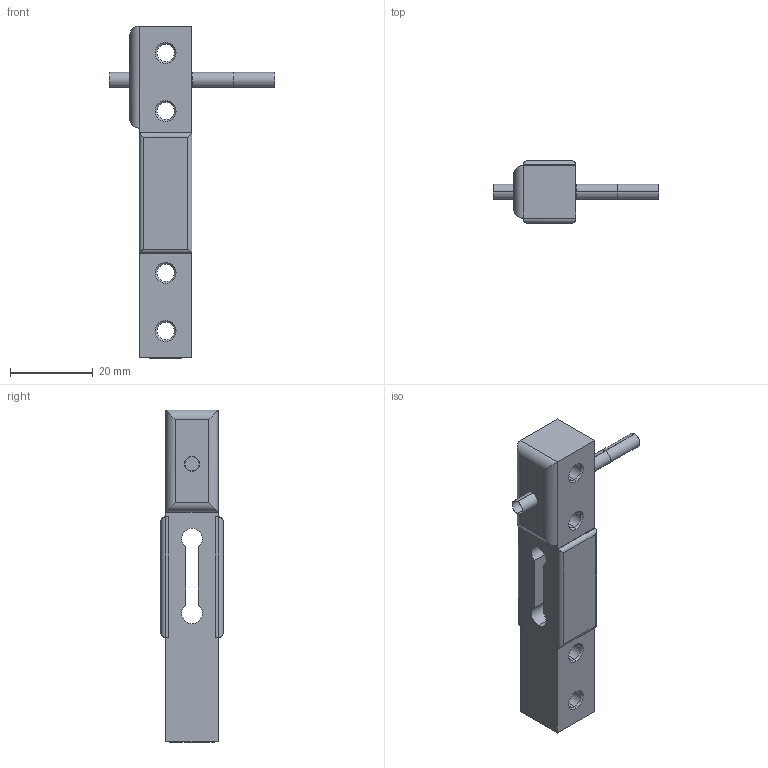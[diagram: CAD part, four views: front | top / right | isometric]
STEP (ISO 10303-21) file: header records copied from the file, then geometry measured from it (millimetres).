
FILE_DESCRIPTION (( 'STEP AP214' ), '1' );
FILE_NAME ('127949_0204.2.3_Standard-KM 102_00.STEP', '2012-10-25T08:34:40', ( 'mega' ), ( 'mega' ), 'SwSTEP 2.0', 'SolidWorks 2012', '' );
FILE_SCHEMA (( 'AUTOMOTIVE_DESIGN' ));
Length unit declared in the file: millimetre
Products named in the file (4): 128790_0204.1.2_Kabelgrundkörper_00; 127949_0204.1.3_Standard-KM 102_00; 127949_0204.2.3_Standard-KM 102_00; 128790_0204.2.1_4 adriges Kabel_00
Assembly tree (3 placements, depth 3):
  127949_0204.2.3_Standard-KM 102_00
    127949_0204.1.3_Standard-KM 102_00
    128790_0204.2.1_4 adriges Kabel_00
      128790_0204.1.2_Kabelgrundkörper_00
Bounding box: 40 x 15 x 80.01 mm (x, y, z)
Volume: 12681.8 mm3; surface area: 8934.2 mm2
Topology: 6 solids, 6 shells, 99 faces, 222 edges, 138 vertices
Faces by surface type: plane 48, cylinder 33, cone 18
Entity records: 3297 total; most frequent: CARTESIAN_POINT 502, DIRECTION 482, ORIENTED_EDGE 444, EDGE_CURVE 222, AXIS2_PLACEMENT_3D 166, LINE 150, VECTOR 150, VERTEX_POINT 138
